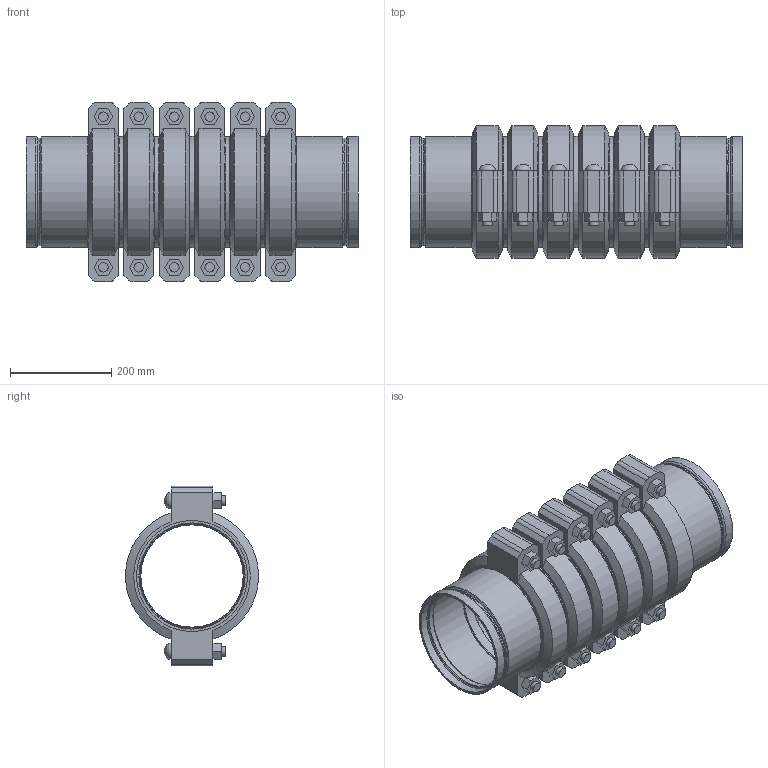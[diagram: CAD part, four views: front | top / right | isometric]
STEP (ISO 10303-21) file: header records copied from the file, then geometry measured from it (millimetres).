
FILE_DESCRIPTION(/* description */ ('VIC STRENGTHIN 100 EXPANSION JOINT 6 COUPLINGS COMPRESSED STYLE E155 (ST1)','CAx-IF Rec.Pracs.---Representation and Presentation of Product Manufacturing Information (PMI)---4.0---2014-10-13'),/* implementation_level */ '2;1');
FILE_NAME(/* name */ 'C:\Users\Vjadhav\AppData\Roaming\Autodesk\ApplicationPlugins\Victaulic.Temp\A634\Victaulic_SS-StrengThin 100_Expansion Joint_Compressed_6 Couplings_Style E155 (ST1)_8 (200).stp',/* time_stamp */ '2021-07-23T12:34:00+05:00',/* author */ ('kkamble'),/* organization */ ('Victaulic'),/* preprocessor_version */ 'ST-DEVELOPER v17.2',/* originating_system */ 'Autodesk Inventor 2019',/* authorisation */ '');
FILE_SCHEMA (('AP242_MANAGED_MODEL_BASED_3D_ENGINEERING_MIM_LF { 1 0 10303 442 1 1 4 }'));
Length unit declared in the file: inch
Products named in the file (4): E155-08.0; E494G-08.0; Nipple-08.0; 075-08.0
Assembly tree (13 placements, depth 2):
  E155-08.0
    E494G-08.0  x2
    Nipple-08.0  x5
    075-08.0  x6
Bounding box: 654.81 x 261.72 x 354.84 mm (x, y, z)
Volume: 10956905.6 mm3; surface area: 1986364.7 mm2
Topology: 13 solids, 25 shells, 448 faces, 1142 edges, 810 vertices
Faces by surface type: plane 248, cylinder 128, torus 32, cone 28, bspline 12
Full cylindrical faces by diameter (mm): 19.05 x24, 21.209 x12, 201.651 x2, 202.717 x5, 204.851 x2, 209.525 x6, 211.201 x2, 214.401 x12, 219.075 x27
Entity records: 3714 total; most frequent: DIRECTION 661, CARTESIAN_POINT 654, ORIENTED_EDGE 544, AXIS2_PLACEMENT_3D 282, EDGE_CURVE 272, VERTEX_POINT 197, CIRCLE 167, EDGE_LOOP 125
